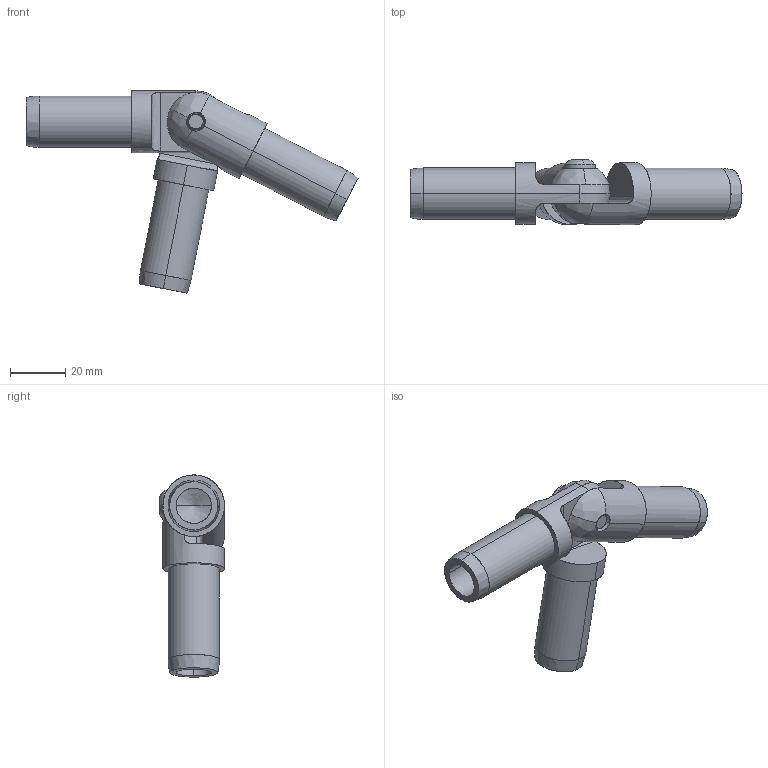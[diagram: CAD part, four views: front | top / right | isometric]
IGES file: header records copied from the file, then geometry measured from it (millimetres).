
Start section: SolidWorks IGES file using analytic representation for surfaces
Global section: file name: \\SERVER3\Design\_New Design Drive Folder List\_Design Vault\AAI\Modular Round Tube Connectors\Solidworks Models\STP Files\12202013\0.750 Inch Modular Connectors\Assemblies\0.75 Inch In-Plane Adjustable Angle 3-Tube Joint Kit.IGS; native system: SolidWorks 2013; preprocessor: SolidWorks 2013; author: tbraun; date: 140109.103643; units: inch
Bounding box: 119.71 x 23.48 x 72.9 mm (x, y, z)
Surface area: 19962.4 mm2 (no closed solid volume)
Topology: 0 solids, 0 shells, 228 faces, 3229 edges, 3221 vertices
Faces by surface type: revolution 175, bspline 53
